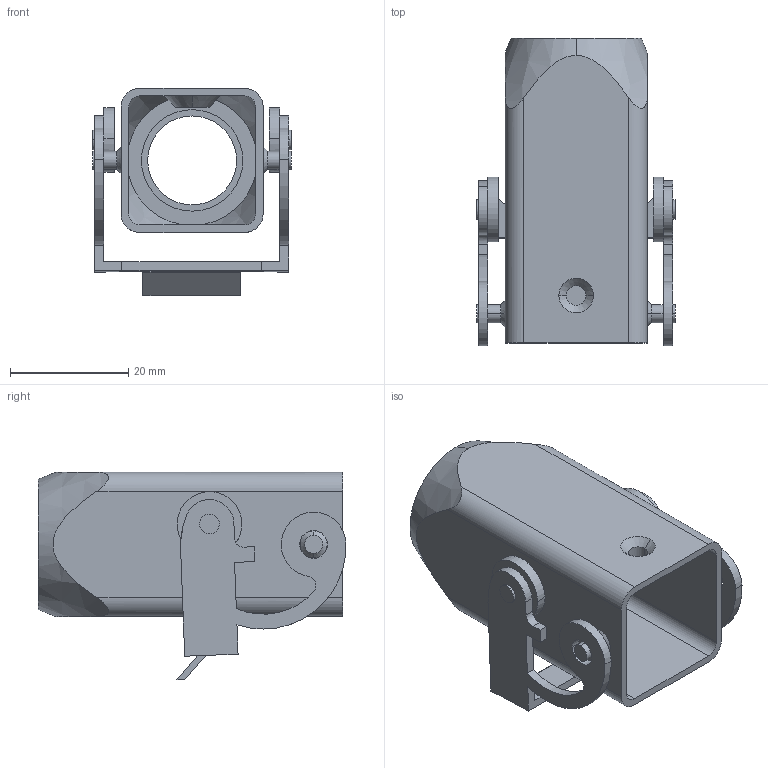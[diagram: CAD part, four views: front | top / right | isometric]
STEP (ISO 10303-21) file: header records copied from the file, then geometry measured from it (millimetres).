
FILE_DESCRIPTION (( 'STEP AP214' ), '1' );
FILE_NAME ('CKAX-03VGS.STEP', '2006-07-06T15:31:22', ( 'Mencom User' ), ( 'Mencom Corporation' ), 'SwSTEP 2.0', 'SolidWorks 2006104', '' );
FILE_SCHEMA (( 'AUTOMOTIVE_DESIGN' ));
Length unit declared in the file: inch
Products named in the file (1): CKAX-03VGS
Bounding box: 33.59 x 52 x 35.03 mm (x, y, z)
Surface area: 11347.8 mm2 (no closed solid volume)
Topology: 0 solids, 2 shells, 107 faces, 292 edges, 192 vertices
Faces by surface type: plane 50, cylinder 47, cone 10
Entity records: 5010 total; most frequent: CARTESIAN_POINT 810, DIRECTION 608, ORIENTED_EDGE 562, EDGE_CURVE 292, AXIS2_PLACEMENT_3D 218, VERTEX_POINT 192, VECTOR 172, LINE 172
